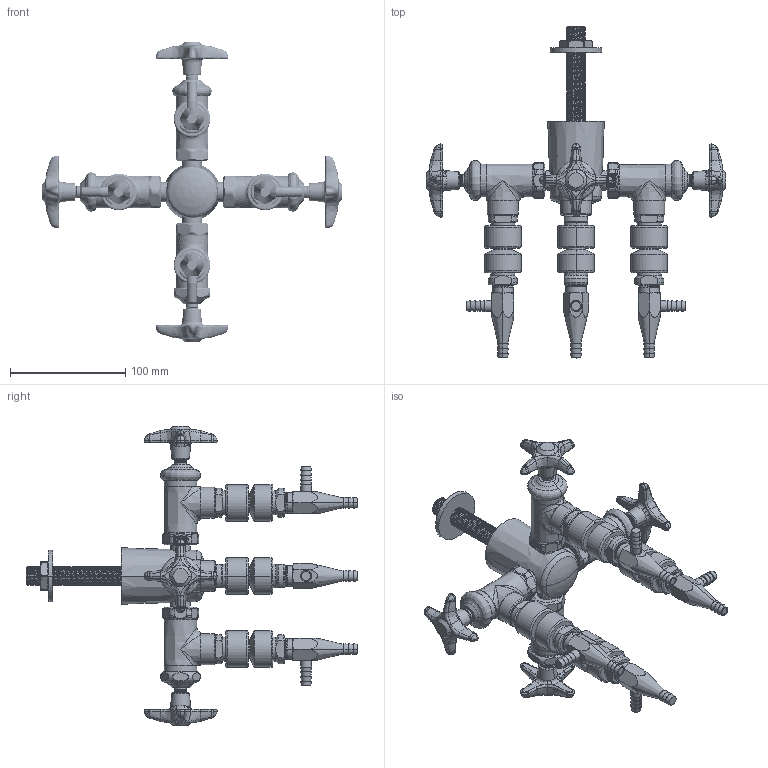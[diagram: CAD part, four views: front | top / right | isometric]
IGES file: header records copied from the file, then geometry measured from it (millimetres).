
Start section:  PTC IGES file: LWV2-C61-40.igs
Global section: file name: LWV2-C61-40.igs; native system: Creo Parametric by PTC Inc.; preprocessor: 2014500; author: usch_engrender; organization: Unknown; date: 20151117.102950; units: inch
Bounding box: 259.77 x 288.04 x 259.77 mm (x, y, z)
Volume: 554788 mm3; surface area: 154391.9 mm2
Topology: 1 solids, 8 shells, 2691 faces, 6302 edges, 3749 vertices
Faces by surface type: bspline 1410, revolution 1281
